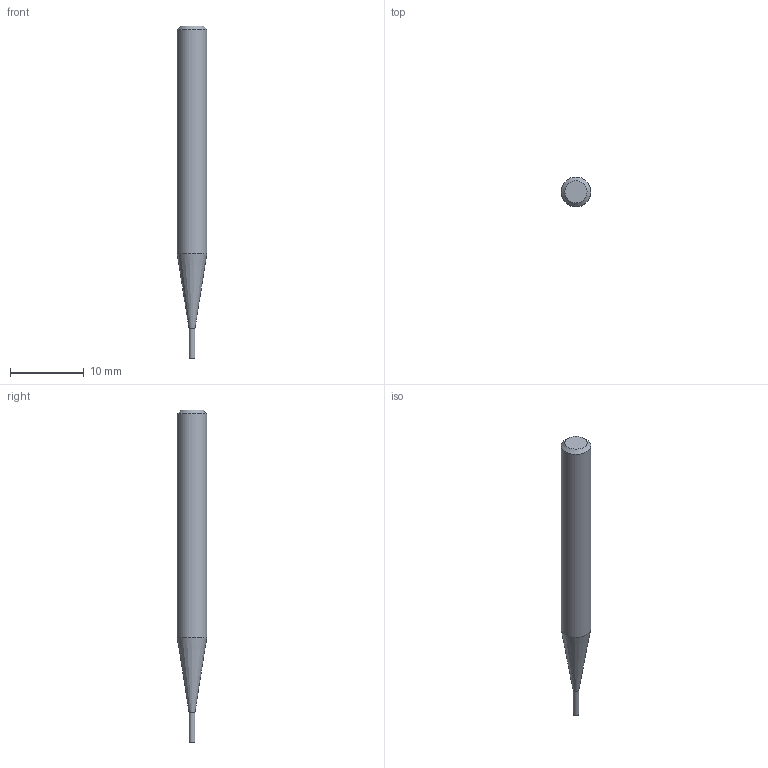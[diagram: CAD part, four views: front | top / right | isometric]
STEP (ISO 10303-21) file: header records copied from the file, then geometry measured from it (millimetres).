
FILE_DESCRIPTION((''),'2;1');
FILE_NAME('C:\Users\nsx150\Desktop\RSE230_20210427\01-00644-00801 RSE230 D0_8X4.step','2021-05-07T14:53:02',(''),(''),'STEP Write','Mastercam 2021 ... CNC Software, Inc.','');
FILE_SCHEMA(('AUTOMOTIVE_DESIGN'));
Length unit declared in the file: millimetre
Products named in the file (1): None
Bounding box: 4 x 4 x 45 mm (x, y, z)
Volume: 441.3 mm3; surface area: 485.5 mm2
Topology: 2 solids, 2 shells, 8 faces, 10 edges, 6 vertices
Faces by surface type: plane 4, cylinder 2, cone 2
Full cylindrical faces by diameter (mm): 0.8 x1, 4 x1
Entity records: 190 total; most frequent: DIRECTION 32, CARTESIAN_POINT 22, AXIS2_PLACEMENT_3D 16, ORIENTED_EDGE 12, EDGE_LOOP 12, STYLED_ITEM 11, ADVANCED_FACE 8, VERTEX_POINT 6
